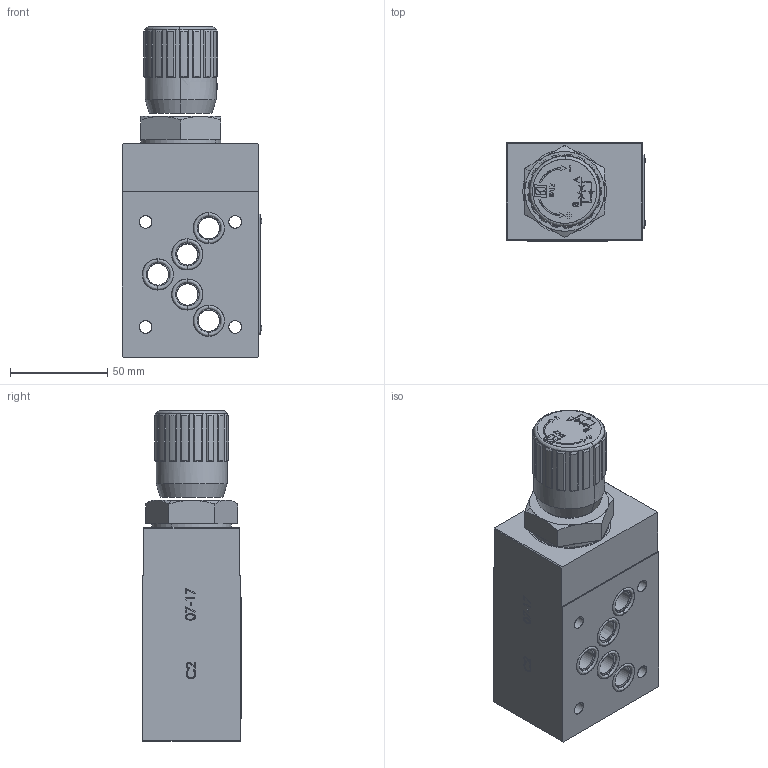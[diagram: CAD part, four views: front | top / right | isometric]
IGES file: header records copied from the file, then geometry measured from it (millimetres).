
Start section: SolidWorks IGES file using analytic representation for surfaces
Global section: file name: C:\Users\pc-te25\Desktop\357-5-A-05.IGS; native system: SolidWorks 2018; preprocessor: SolidWorks 2018; author: pc-te25; date: 191204.084758; units: millimetre
Bounding box: 71.66 x 50.58 x 169.8 mm (x, y, z)
Surface area: 57568.6 mm2 (no closed solid volume)
Topology: 0 solids, 0 shells, 738 faces, 13432 edges, 13432 vertices
Faces by surface type: bspline 549, revolution 189
